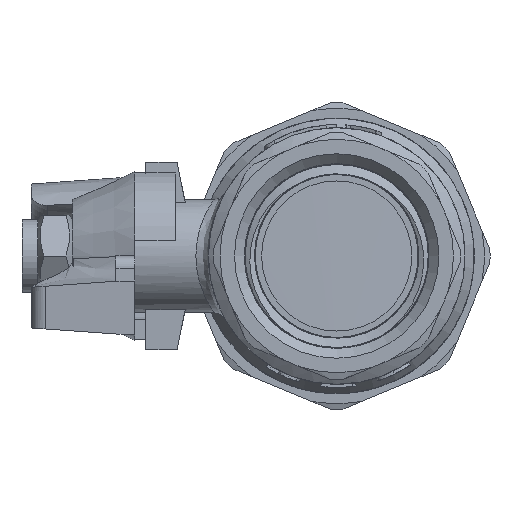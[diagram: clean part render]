
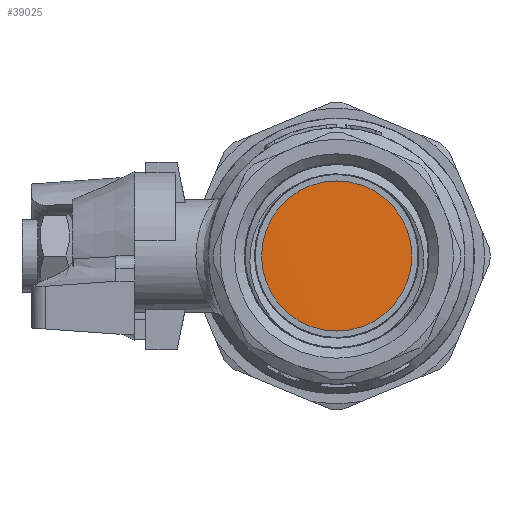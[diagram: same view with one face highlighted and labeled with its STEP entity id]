
A CAD part, left-side view. The second image highlights one B-rep face of the part: STEP entity #39025.
In plain terms, the highlighted cylindrical face has radius 20.765 mm (diameter 41.53 mm), a full revolution.
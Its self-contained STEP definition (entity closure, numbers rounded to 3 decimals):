
#2515=CYLINDRICAL_SURFACE('',#41590,20.765);
#3665=FACE_OUTER_BOUND('',#5922,.T.);
#5922=EDGE_LOOP('',(#30056,#30057,#30058));
#8148=LINE('',#82173,#10261);
#8150=LINE('',#82241,#10263);
#10261=VECTOR('',#45888,20.765);
#10263=VECTOR('',#45896,20.765);
#12405=B_SPLINE_CURVE_WITH_KNOTS('',3,(#82242,#82243,#82244,#82245,#82246,
#82247,#82248,#82249,#82250,#82251,#82252,#82253,#82254,#82255,#82256,#82257,
#82258),.UNSPECIFIED.,.F.,.F.,(4,1,1,1,1,1,1,1,1,1,1,1,1,1,4),(25.133,
25.318,25.807,26.296,26.785,27.275,
27.764,28.253,28.742,29.231,29.72,
30.209,30.698,31.187,31.416),
 .UNSPECIFIED.);
#16282=VERTEX_POINT('',#82171);
#16283=VERTEX_POINT('',#82172);
#16287=VERTEX_POINT('',#82240);
#21289=EDGE_CURVE('',#16282,#16283,#8148,.T.);
#21295=EDGE_CURVE('',#16287,#16283,#8150,.T.);
#21296=EDGE_CURVE('',#16287,#16282,#12405,.T.);
#30056=ORIENTED_EDGE('',*,*,#21289,.T.);
#30057=ORIENTED_EDGE('',*,*,#21295,.F.);
#30058=ORIENTED_EDGE('',*,*,#21296,.T.);
#39025=ADVANCED_FACE('',(#3665),#2515,.T.);
#41590=AXIS2_PLACEMENT_3D('',#82239,#45894,#45895);
#45888=DIRECTION('',(-1.,0.,0.));
#45894=DIRECTION('center_axis',(-1.,0.,0.));
#45895=DIRECTION('ref_axis',(0.,0.,1.));
#45896=DIRECTION('',(1.,0.,0.));
#82171=CARTESIAN_POINT('',(-12.952,0.,-20.765));
#82172=CARTESIAN_POINT('',(-15.244,0.,-20.765));
#82173=CARTESIAN_POINT('',(-18.5,0.,-20.765));
#82239=CARTESIAN_POINT('Origin',(-18.5,0.,0.));
#82240=CARTESIAN_POINT('',(-15.263,0.,-20.765));
#82241=CARTESIAN_POINT('',(-18.5,0.,-20.765));
#82242=CARTESIAN_POINT('Ctrl Pts',(-15.263,0.,
-20.764));
#82243=CARTESIAN_POINT('Ctrl Pts',(-15.24,1.284,-20.764));
#82244=CARTESIAN_POINT('Ctrl Pts',(-15.158,5.954,-20.338));
#82245=CARTESIAN_POINT('Ctrl Pts',(-15.015,13.497,-16.878));
#82246=CARTESIAN_POINT('Ctrl Pts',(-14.835,19.844,-8.558));
#82247=CARTESIAN_POINT('Ctrl Pts',(-14.655,21.538,1.768));
#82248=CARTESIAN_POINT('Ctrl Pts',(-14.475,18.183,11.68));
#82249=CARTESIAN_POINT('Ctrl Pts',(-14.295,10.563,18.853));
#82250=CARTESIAN_POINT('Ctrl Pts',(-14.115,0.467,
21.606));
#82251=CARTESIAN_POINT('Ctrl Pts',(-13.935,-9.738,
19.293));
#82252=CARTESIAN_POINT('Ctrl Pts',(-13.755,-17.66,
12.456));
#82253=CARTESIAN_POINT('Ctrl Pts',(-13.576,-21.442,
2.698));
#82254=CARTESIAN_POINT('Ctrl Pts',(-13.396,-20.196,-7.692));
#82255=CARTESIAN_POINT('Ctrl Pts',(-13.216,-14.214,
-16.278));
#82256=CARTESIAN_POINT('Ctrl Pts',(-13.068,-6.553,
-20.202));
#82257=CARTESIAN_POINT('Ctrl Pts',(-12.98,-1.584,-20.763));
#82258=CARTESIAN_POINT('Ctrl Pts',(-12.952,0.,
-20.763));
